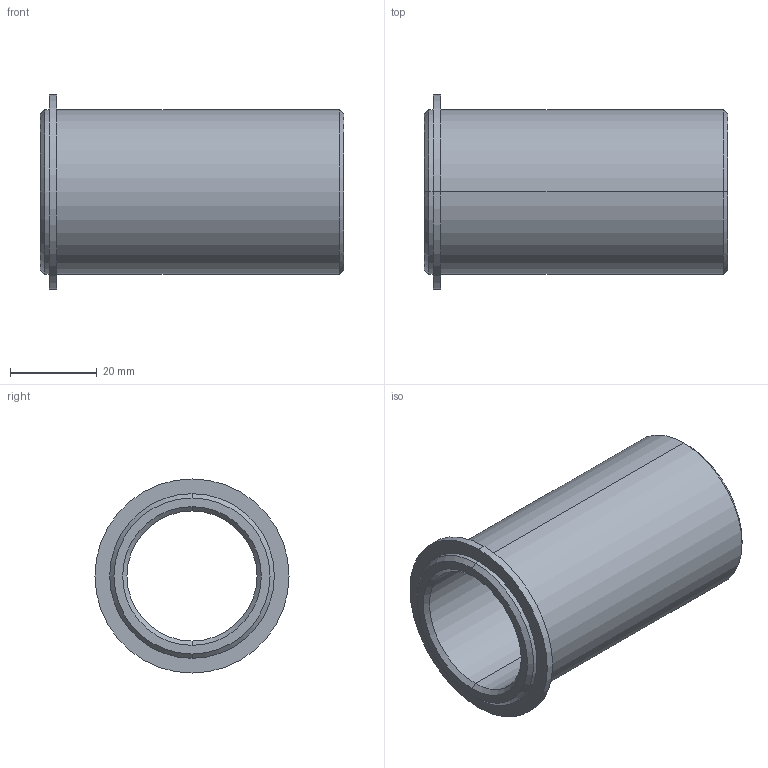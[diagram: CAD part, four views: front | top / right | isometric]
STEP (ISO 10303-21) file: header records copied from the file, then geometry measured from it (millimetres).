
FILE_DESCRIPTION (( 'STEP AP214' ), '1' );
FILE_NAME ('F1332_30x070.STEP', '2020-04-16T17:23:34', ( '' ), ( '' ), 'SwSTEP 2.0', 'SolidWorks 2014', '' );
FILE_SCHEMA (( 'AUTOMOTIVE_DESIGN' ));
Length unit declared in the file: millimetre
Products named in the file (1): F1332_30x070
Bounding box: 70 x 44.8 x 44.8 mm (x, y, z)
Volume: 30468.2 mm3; surface area: 16480 mm2
Topology: 1 solids, 1 shells, 20 faces, 40 edges, 24 vertices
Faces by surface type: cone 8, cylinder 8, plane 4
Entity records: 562 total; most frequent: DIRECTION 106, CARTESIAN_POINT 85, ORIENTED_EDGE 80, AXIS2_PLACEMENT_3D 45, EDGE_CURVE 40, VERTEX_POINT 24, CIRCLE 24, EDGE_LOOP 24
